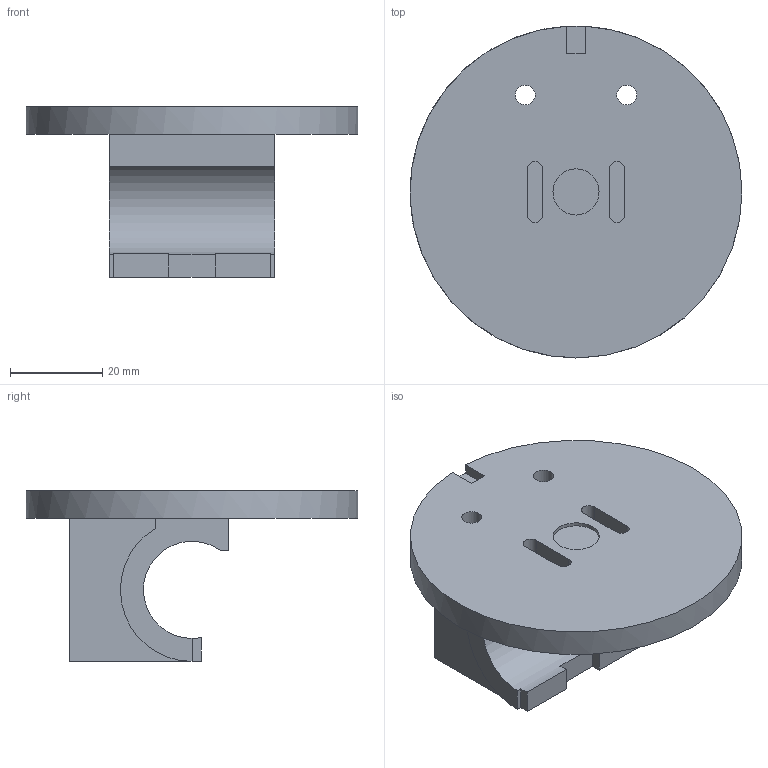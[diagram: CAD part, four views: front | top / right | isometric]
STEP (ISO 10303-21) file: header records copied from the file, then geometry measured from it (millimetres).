
FILE_DESCRIPTION(('Open CASCADE Model'),'2;1');
FILE_NAME('Open CASCADE Shape Model','2026-10-16T17:03:11',('Author'),( 'Open CASCADE'),'Open CASCADE STEP processor 7.9','Open CASCADE 7.9' ,'Unknown');
FILE_SCHEMA(('AUTOMOTIVE_DESIGN { 1 0 10303 214 1 1 1 1 }'));
Length unit declared in the file: millimetre
Products named in the file (1): Open CASCADE STEP translator 7.9 1
Bounding box: 72 x 72 x 37.05 mm (x, y, z)
Volume: 42342.4 mm3; surface area: 16536.4 mm2
Topology: 1 solids, 1 shells, 87 faces, 217 edges, 142 vertices
Faces by surface type: plane 71, cylinder 16
Full cylindrical faces by diameter (mm): 4.3 x4, 8 x2, 10 x1, 72 x1
Entity records: 5381 total; most frequent: CARTESIAN_POINT 1111, DIRECTION 750, LINE 483, VECTOR 483, ORIENTED_EDGE 434, PCURVE 434, DEFINITIONAL_REPRESENTATION 434, EDGE_CURVE 217
